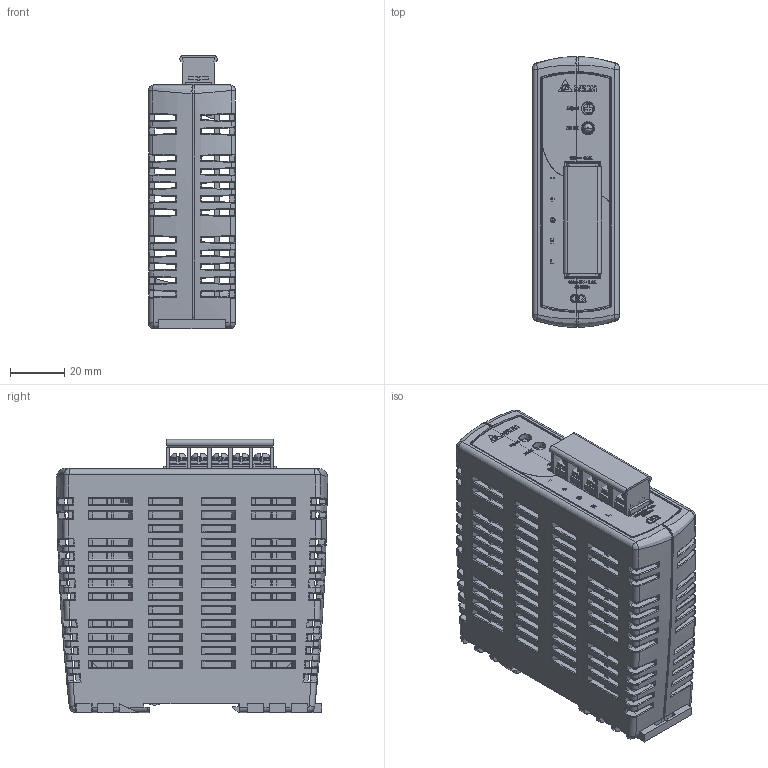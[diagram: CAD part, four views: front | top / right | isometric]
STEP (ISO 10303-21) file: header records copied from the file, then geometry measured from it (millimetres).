
FILE_DESCRIPTION((''),'2;1');
FILE_NAME('DRP012V030W1AZ_ASM','2012-04-20T',('Manop.Pr'),(''),'PRO/ENGINEER BY PARAMETRIC TECHNOLOGY CORPORATION, 2010180','PRO/ENGINEER BY PARAMETRIC TECHNOLOGY CORPORATION, 2010180','');
FILE_SCHEMA(('CONFIG_CONTROL_DESIGN','SHAPE_APPEARANCE_LAYERS_GROUPS'));
Products named in the file (15): 331040250102_CHASSIS; 331040240101_COVER; 342102650202; 326253290101; 326811400000; 2958035903_PWB; 3076677546_A_BODY; 3076677546_A_COVER; 3076677546_A_SCREW; 3076677546_ASM; EE_LED; EE_VR; ASSY_PWB_ASM; 3109010800; DRP012V030W1AZ_ASM
Assembly tree (19 placements, depth 4):
  DRP012V030W1AZ_ASM
    331040250102_CHASSIS
    331040240101_COVER
    342102650202
    326253290101
    326811400000
    ASSY_PWB_ASM
      2958035903_PWB
      3076677546_ASM
        3076677546_A_BODY
        3076677546_A_COVER
        3076677546_A_SCREW  x5
      EE_LED
      EE_VR
    3109010800  x2
Bounding box: 32 x 99.98 x 100.62 mm (x, y, z)
Volume: 72009.8 mm3; surface area: 94351.7 mm2
Topology: 17 solids, 19 shells, 3973 faces, 11027 edges, 7106 vertices
Faces by surface type: plane 2303, cylinder 724, bspline 408, extrusion 341, cone 119, torus 78
Entity records: 158277 total; most frequent: CARTESIAN_POINT 43741, ORIENTED_EDGE 19502, DIRECTION 13853, PRESENTATION_STYLE_ASSIGNMENT 9844, STYLED_ITEM 9763, CURVE_STYLE 9751, EDGE_CURVE 9751, VECTOR 6471
